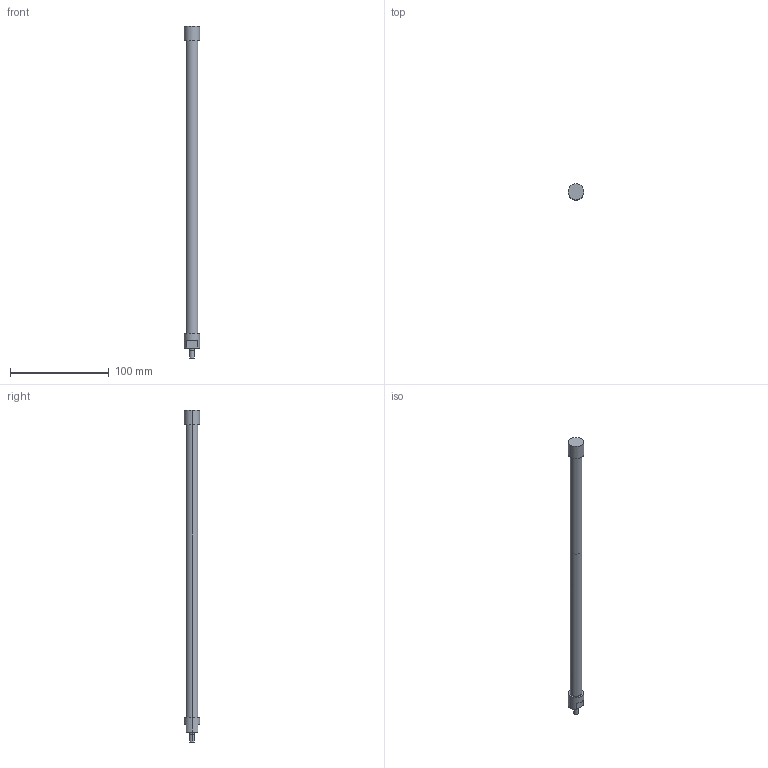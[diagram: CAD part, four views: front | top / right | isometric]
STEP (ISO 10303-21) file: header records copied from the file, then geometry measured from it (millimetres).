
FILE_DESCRIPTION(('STEP AP214'),'1');
FILE_NAME('ETT-R025M335.stp','2015-02-04T08:08:37',(' '),(' '),'Spatial InterOp 3D',' ',' ');
FILE_SCHEMA(('automotive_design'));
Length unit declared in the file: metre
Products named in the file (2): 1; 2
Bounding box: 16 x 16 x 336 mm (x, y, z)
Volume: 22747.1 mm3; surface area: 19768.6 mm2
Topology: 1 solids, 5 shells, 24 faces, 56 edges, 42 vertices
Faces by surface type: cylinder 12, plane 12
Entity records: 952 total; most frequent: DIRECTION 142, CARTESIAN_POINT 124, ORIENTED_EDGE 100, AXIS2_PLACEMENT_3D 60, EDGE_CURVE 56, VERTEX_POINT 42, CIRCLE 34, EDGE_LOOP 28
